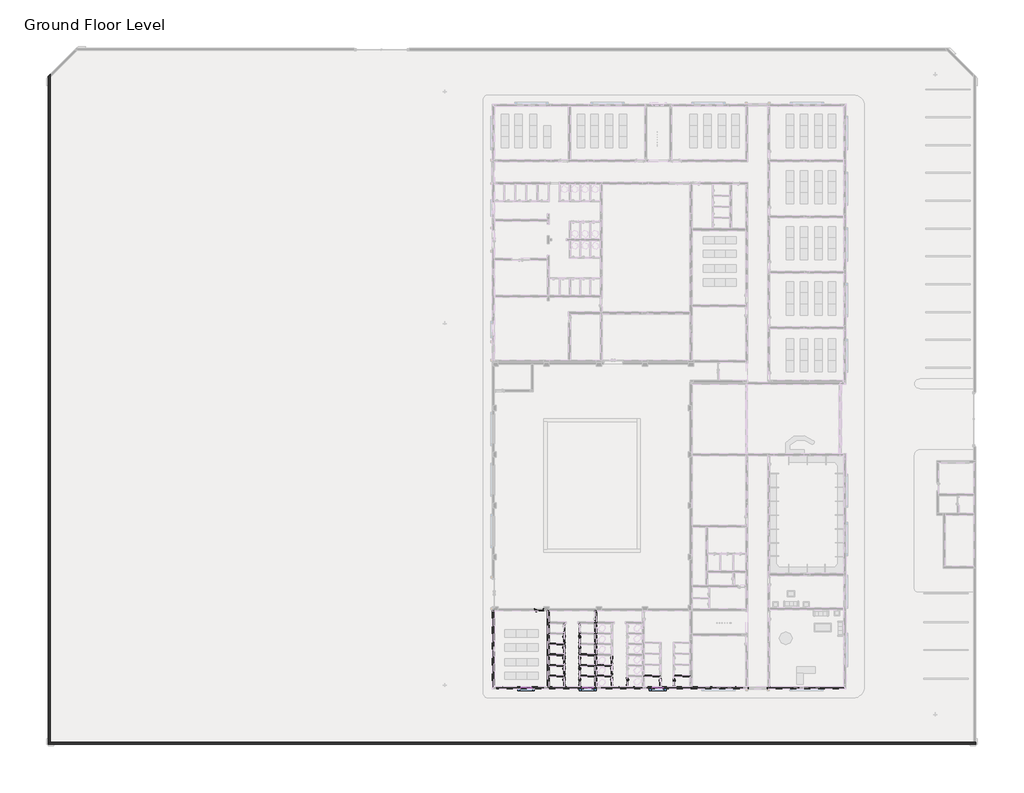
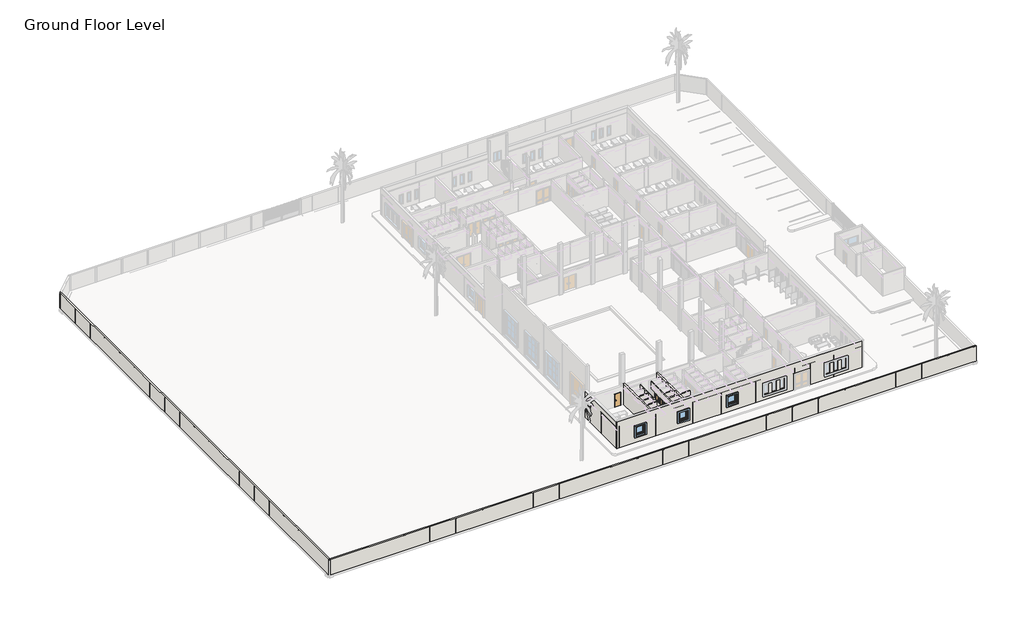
# One storey, part 1 of 23: 19 walls, 17 doors, 6 windows.
"""IFC4 building model written with IfcOpenShell, lengths in millimetres."""

from ifc_helpers import new_model, si_unit, frame, origin, place, context, project, spatial, polyline, outline, extrude, faceted_brep, transform, mapped, element, save
from components import int_single_flush_nz_700x_2100_d6161bae, int_single_flush_nz_700x_2100_e1d28701, int_single_flush_nz_900_x_2100_2a598139, window_batten_type_1_00c4e306, window_batten_type_1_dd563b97, window_single_shutter_w5_77842b58

model = new_model("IFC4")

# Units and contexts
model_context = context("Model", 3, world=origin())
ifc_project = project(units=[si_unit("LENGTHUNIT", "METRE", prefix="MILLI")], contexts=[model_context])

# Site, building, storey
site = spatial("IfcSite", under=ifc_project)
building = spatial("IfcBuilding", under=site)
storey = spatial("IfcBuildingStorey", under=building, Name="Ground Floor Level", Elevation=900.0)

# Doors
placement = place(None, origin())
int_single_flush_nz_700x_2100_shape = int_single_flush_nz_700x_2100_d6161bae(model_context)
element("IfcDoor", 1, ObjectType="Int Single-Flush (NZ) : 700x 2100", at=placement, inside=storey, context=model_context, shape_type="MappedRepresentation", body=[
    mapped(int_single_flush_nz_700x_2100_shape, transform((-12660.5667605, -40683.7935766, 1000.0), x_axis=(0.0, -1.0, 0.0), y_axis=(1.0, 0.0, 0.0), z_axis=(0.0, 0.0, 1.0))),
])
element("IfcDoor", 2, ObjectType="Int Single-Flush (NZ) : 700x 2100", at=placement, inside=storey, context=model_context, shape_type="MappedRepresentation", body=[
    mapped(int_single_flush_nz_700x_2100_shape, transform((-12660.5667605, -39492.7977116, 1000.0), x_axis=(0.0, -1.0, 0.0), y_axis=(1.0, 0.0, 0.0), z_axis=(0.0, 0.0, 1.0))),
])
element("IfcDoor", 3, ObjectType="Int Single-Flush (NZ) : 700x 2100", at=placement, inside=storey, context=model_context, shape_type="MappedRepresentation", body=[
    mapped(int_single_flush_nz_700x_2100_shape, transform((-12660.5667605, -38352.7881216, 1000.0), x_axis=(0.0, -1.0, 0.0), y_axis=(1.0, 0.0, 0.0), z_axis=(0.0, 0.0, 1.0))),
])
element("IfcDoor", 4, ObjectType="Int Single-Flush (NZ) : 700x 2100", at=placement, inside=storey, context=model_context, shape_type="MappedRepresentation", body=[
    mapped(int_single_flush_nz_700x_2100_shape, transform((-12660.5667605, -37212.7833316, 1000.0), x_axis=(0.0, -1.0, 0.0), y_axis=(1.0, 0.0, 0.0), z_axis=(0.0, 0.0, 1.0))),
])
element("IfcDoor", 5, ObjectType="Int Single-Flush (NZ) : 700x 2100", at=placement, inside=storey, context=model_context, shape_type="MappedRepresentation", body=[
    mapped(int_single_flush_nz_700x_2100_shape, transform((-12660.5667605, -36072.7834416, 1000.0), x_axis=(0.0, -1.0, 0.0), y_axis=(1.0, 0.0, 0.0), z_axis=(0.0, 0.0, 1.0))),
])
element("IfcDoor", 6, ObjectType="Int Single-Flush (NZ) : 700x 2100", at=placement, inside=storey, context=model_context, shape_type="MappedRepresentation", body=[
    mapped(int_single_flush_nz_700x_2100_shape, transform((-7527.2347605, -40683.7935766, 1000.0), x_axis=(0.0, -1.0, 0.0), y_axis=(1.0, 0.0, 0.0), z_axis=(0.0, 0.0, 1.0))),
])
element("IfcDoor", 7, ObjectType="Int Single-Flush (NZ) : 700x 2100", at=placement, inside=storey, context=model_context, shape_type="MappedRepresentation", body=[
    mapped(int_single_flush_nz_700x_2100_shape, transform((-2496.7643824, -40750.7846466, 1000.0), x_axis=(0.0, -1.0, 0.0), y_axis=(1.0, 0.0, 0.0), z_axis=(0.0, 0.0, 1.0))),
])
int_single_flush_nz_700x_2100_2_shape = int_single_flush_nz_700x_2100_e1d28701(model_context)
element("IfcDoor", 8, ObjectType="Int Single-Flush (NZ) : 700x 2100", at=placement, inside=storey, context=model_context, shape_type="MappedRepresentation", body=[
    mapped(int_single_flush_nz_700x_2100_2_shape, transform((-14300.5667605, -36072.7834416, 1000.0), x_axis=(0.0, -1.0, 0.0), y_axis=(1.0, 0.0, 0.0), z_axis=(0.0, 0.0, 1.0))),
])
element("IfcDoor", 9, ObjectType="Int Single-Flush (NZ) : 700x 2100", at=placement, inside=storey, context=model_context, shape_type="MappedRepresentation", body=[
    mapped(int_single_flush_nz_700x_2100_2_shape, transform((-14300.5667605, -37212.7833316, 1000.0), x_axis=(0.0, -1.0, 0.0), y_axis=(1.0, 0.0, 0.0), z_axis=(0.0, 0.0, 1.0))),
])
element("IfcDoor", 10, ObjectType="Int Single-Flush (NZ) : 700x 2100", at=placement, inside=storey, context=model_context, shape_type="MappedRepresentation", body=[
    mapped(int_single_flush_nz_700x_2100_2_shape, transform((-14300.5667605, -38352.7881216, 1000.0), x_axis=(0.0, -1.0, 0.0), y_axis=(1.0, 0.0, 0.0), z_axis=(0.0, 0.0, 1.0))),
])
element("IfcDoor", 11, ObjectType="Int Single-Flush (NZ) : 700x 2100", at=placement, inside=storey, context=model_context, shape_type="MappedRepresentation", body=[
    mapped(int_single_flush_nz_700x_2100_2_shape, transform((-14300.5667605, -39497.7977116, 1000.0), x_axis=(0.0, -1.0, 0.0), y_axis=(1.0, 0.0, 0.0), z_axis=(0.0, 0.0, 1.0))),
])
element("IfcDoor", 12, ObjectType="Int Single-Flush (NZ) : 700x 2100", at=placement, inside=storey, context=model_context, shape_type="MappedRepresentation", body=[
    mapped(int_single_flush_nz_700x_2100_2_shape, transform((-14300.5667605, -40688.7935766, 1000.0), x_axis=(0.0, -1.0, 0.0), y_axis=(1.0, 0.0, 0.0), z_axis=(0.0, 0.0, 1.0))),
])
element("IfcDoor", 13, ObjectType="Int Single-Flush (NZ) : 700x 2100", at=placement, inside=storey, context=model_context, shape_type="MappedRepresentation", body=[
    mapped(int_single_flush_nz_700x_2100_2_shape, transform((-9167.2347605, -38352.7881216, 1000.0), x_axis=(0.0, -1.0, 0.0), y_axis=(1.0, 0.0, 0.0), z_axis=(0.0, 0.0, 1.0))),
])
element("IfcDoor", 14, ObjectType="Int Single-Flush (NZ) : 700x 2100", at=placement, inside=storey, context=model_context, shape_type="MappedRepresentation", body=[
    mapped(int_single_flush_nz_700x_2100_2_shape, transform((-9167.2347605, -39492.7977116, 1000.0), x_axis=(0.0, -1.0, 0.0), y_axis=(1.0, 0.0, 0.0), z_axis=(0.0, 0.0, 1.0))),
])
element("IfcDoor", 15, ObjectType="Int Single-Flush (NZ) : 700x 2100", at=placement, inside=storey, context=model_context, shape_type="MappedRepresentation", body=[
    mapped(int_single_flush_nz_700x_2100_2_shape, transform((-9167.2347605, -40683.7935766, 1000.0), x_axis=(0.0, -1.0, 0.0), y_axis=(1.0, 0.0, 0.0), z_axis=(0.0, 0.0, 1.0))),
])
element("IfcDoor", 16, ObjectType="Int Single-Flush (NZ) : 700x 2100", at=placement, inside=storey, context=model_context, shape_type="MappedRepresentation", body=[
    mapped(int_single_flush_nz_700x_2100_2_shape, transform((-3931.0371386, -40750.7846466, 1000.0), x_axis=(0.0, -1.0, 0.0), y_axis=(1.0, 0.0, 0.0), z_axis=(0.0, 0.0, 1.0))),
])
int_single_flush_nz_900_x_2100_shape = int_single_flush_nz_900_x_2100_2a598139(model_context)
element("IfcDoor", 17, ObjectType="Int Single-Flush (NZ) : 900 x 2100", at=placement, inside=storey, context=model_context, shape_type="MappedRepresentation", body=[
    mapped(int_single_flush_nz_900_x_2100_shape, transform((-16951.2327605, -32854.7846466, 1000.0), x_axis=(1.0, 0.0, 0.0), y_axis=(0.0, 1.0, 0.0), z_axis=(0.0, 0.0, 1.0))),
])

# Walls
element("IfcWall", 18, ObjectType="Exterior - Blockwork 200mm", at=placement, inside=storey, context=model_context, shape_type="Brep", body=[
    faceted_brep([(7852.7672395, -41144.7846466, 4400.0), (7862.7672395, -41144.7846466, 4400.0), (15843.0482736, -41144.7846466, 4400.0), (15843.0482736, -41144.7846466, 1000.0), (7862.7672395, -41144.7846466, 1000.0), (7852.7672395, -41144.7846466, 1000.0), (13323.7672395, -41144.7846466, 1800.0000012), (13323.7672395, -41144.7846466, 3400.0000012), (12723.7672395, -41144.7846466, 3400.0000012), (12723.7672395, -41144.7846466, 1800.0000012), (12123.7672395, -41144.7846466, 1800.0000013), (12123.7672395, -41144.7846466, 3400.0000013), (11523.7672395, -41144.7846466, 3400.0000013), (11523.7672395, -41144.7846466, 1800.0000013), (10923.7672395, -41144.7846466, 1800.0000013), (10923.7672395, -41144.7846466, 3400.0000013), (10323.7672395, -41144.7846466, 3400.0000013), (10323.7672395, -41144.7846466, 1800.0000013), (-547.2327605, -41144.7846466, 4400.0), (-537.2327605, -41144.7846466, 4400.0), (5242.7672394, -41144.7846466, 4400.0), (5462.7672394, -41144.7846466, 4400.0), (7642.7672395, -41144.7846466, 4400.0), (7652.7672395, -41144.7846466, 4400.0), (7652.7672395, -41144.7846466, 1000.0), (7642.7672395, -41144.7846466, 1000.0), (7578.7672394, -41144.7846466, 1000.0), (7578.7672394, -41144.7846466, 3400.0), (5526.7672394, -41144.7846466, 3400.0), (5526.7672394, -41144.7846466, 1000.0), (5462.7672394, -41144.7846466, 1000.0), (5452.7672394, -41144.7846466, 1000.0), (5452.7672394, -41144.7846466, 900.0), (5252.7672394, -41144.7846466, 900.0), (5252.7672394, -41144.7846466, 1000.0), (5242.7672394, -41144.7846466, 1000.0), (-537.2327605, -41144.7846466, 1000.0), (-547.2327605, -41144.7846466, 1000.0), (3823.7672395, -41144.7846466, 1800.0000012), (3823.7672395, -41144.7846466, 3400.0000012), (3223.7672395, -41144.7846466, 3400.0000012), (3223.7672395, -41144.7846466, 1800.0000012), (2623.7672395, -41144.7846466, 1800.0000013), (2623.7672395, -41144.7846466, 3400.0000013), (2023.7672395, -41144.7846466, 3400.0000013), (2023.7672395, -41144.7846466, 1800.0000013), (1423.7672395, -41144.7846466, 1800.0000013), (1423.7672395, -41144.7846466, 3400.0000013), (823.7672395, -41144.7846466, 3400.0000013), (823.7672395, -41144.7846466, 1800.0000013), (-22057.2327605, -41144.7846466, 5302.8002678), (-21837.2327605, -41144.7846466, 5302.8002678), (-19976.2327602, -41144.7846466, 5302.8002678), (-16876.2327604, -41144.7846466, 5302.8002678), (-13326.2327602, -41144.7846466, 5302.8002678), (-10226.2327604, -41144.7846466, 5302.8002678), (-5776.2327602, -41144.7846466, 5302.8002678), (-2676.2327604, -41144.7846466, 5302.8002678), (773.7672398, -41144.7846466, 5302.8002678), (3873.7672396, -41144.7846466, 5302.8002678), (10282.7672394, -41144.7846466, 5302.8002678), (13382.7672392, -41144.7846466, 5302.8002678), (15843.0482736, -41144.7846466, 5302.8002678), (15843.0482736, -41144.7846466, 4550.0), (-21837.2327605, -41144.7846466, 4550.0), (-22047.2327605, -41144.7846466, 4550.0), (-22047.2327605, -41144.7846466, 4400.0), (-21837.2327605, -41144.7846466, 4400.0), (-16157.2327605, -41144.7846466, 4400.0), (-15937.2327605, -41144.7846466, 4400.0), (-14360.5667605, -41144.7846466, 4400.0), (-14240.5667605, -41144.7846466, 4400.0), (-12720.5667605, -41144.7846466, 4400.0), (-12600.5667605, -41144.7846466, 4400.0), (-11023.9007605, -41144.7846466, 4400.0), (-10803.9007605, -41144.7846466, 4400.0), (-9227.2347605, -41144.7846466, 4400.0), (-9107.2347605, -41144.7846466, 4400.0), (-7587.2347605, -41144.7846466, 4400.0), (-7467.2347605, -41144.7846466, 4400.0), (-5890.5687605, -41144.7846466, 4400.0), (-5670.5687605, -41144.7846466, 4400.0), (-3991.0371386, -41144.7846466, 4400.0), (-3871.0371386, -41144.7846466, 4400.0), (-2556.7643824, -41144.7846466, 4400.0), (-2436.7643824, -41144.7846466, 4400.0), (-757.2327605, -41144.7846466, 4400.0), (-747.2327605, -41144.7846466, 4400.0), (-747.2327605, -41144.7846466, 1000.0), (-757.2327605, -41144.7846466, 1000.0), (-15937.2327605, -41144.7846466, 1000.0), (-15947.2327605, -41144.7846466, 1000.0), (-15947.2327605, -41144.7846466, 900.0), (-16147.2327605, -41144.7846466, 900.0), (-16147.2327605, -41144.7846466, 1000.0), (-16157.2327605, -41144.7846466, 1000.0), (-21837.2327605, -41144.7846466, 1000.0), (-21847.2327605, -41144.7846466, 1000.0), (-21847.2327605, -41144.7846466, 900.0), (-22057.2327605, -41144.7846466, 900.0), (-17826.2327605, -41144.7846466, 2100.0000012), (-17826.2327605, -41144.7846466, 3400.0000012), (-19026.2327605, -41144.7846466, 3400.0000012), (-19026.2327605, -41144.7846466, 2100.0000012), (-11176.2327605, -41144.7846466, 2100.0000012), (-11176.2327605, -41144.7846466, 3400.0000012), (-12376.2327605, -41144.7846466, 3400.0000012), (-12376.2327605, -41144.7846466, 2100.0000012), (-3626.2327605, -41144.7846466, 2100.0000012), (-3626.2327605, -41144.7846466, 3400.0000012), (-4826.2327605, -41144.7846466, 3400.0000012), (-4826.2327605, -41144.7846466, 2100.0000012), (15843.0482736, -41364.7846466, 5302.8002678), (13382.7672392, -41364.7846466, 5302.8002678), (10282.7672394, -41364.7846466, 5302.8002678), (3873.7672396, -41364.7846466, 5302.8002678), (773.7672398, -41364.7846466, 5302.8002678), (-2676.2327604, -41364.7846466, 5302.8002678), (-5776.2327602, -41364.7846466, 5302.8002678), (-10226.2327604, -41364.7846466, 5302.8002678), (-13326.2327602, -41364.7846466, 5302.8002678), (-16876.2327604, -41364.7846466, 5302.8002678), (-19976.2327602, -41364.7846466, 5302.8002678), (-22057.2327605, -41364.7846466, 5302.8002678), (-22057.2327605, -41364.7846466, 900.0), (5526.7672394, -41364.7846466, 900.0), (5526.7672394, -41364.7846466, 3400.0), (7578.7672394, -41364.7846466, 3400.0), (7578.7672394, -41364.7846466, 900.0), (15843.0482736, -41364.7846466, 900.0), (13323.7672395, -41364.7846466, 3400.0000012), (13323.7672395, -41364.7846466, 1800.0000012), (12723.7672395, -41364.7846466, 1800.0000012), (12723.7672395, -41364.7846466, 3400.0000012), (12123.7672395, -41364.7846466, 3400.0000013), (12123.7672395, -41364.7846466, 1800.0000013), (11523.7672395, -41364.7846466, 1800.0000013), (11523.7672395, -41364.7846466, 3400.0000013), (10923.7672395, -41364.7846466, 3400.0000013), (10923.7672395, -41364.7846466, 1800.0000013), (10323.7672395, -41364.7846466, 1800.0000013), (10323.7672395, -41364.7846466, 3400.0000013), (3823.7672395, -41364.7846466, 3400.0000012), (3823.7672395, -41364.7846466, 1800.0000012), (3223.7672395, -41364.7846466, 1800.0000012), (3223.7672395, -41364.7846466, 3400.0000012), (2623.7672395, -41364.7846466, 3400.0000013), (2623.7672395, -41364.7846466, 1800.0000013), (2023.7672395, -41364.7846466, 1800.0000013), (2023.7672395, -41364.7846466, 3400.0000013), (1423.7672395, -41364.7846466, 3400.0000013), (1423.7672395, -41364.7846466, 1800.0000013), (823.7672395, -41364.7846466, 1800.0000013), (823.7672395, -41364.7846466, 3400.0000013), (-17826.2327605, -41364.7846466, 3400.0000012), (-17826.2327605, -41364.7846466, 2100.0000012), (-19026.2327605, -41364.7846466, 2100.0000012), (-19026.2327605, -41364.7846466, 3400.0000012), (-11176.2327605, -41364.7846466, 3400.0000012), (-11176.2327605, -41364.7846466, 2100.0000012), (-12376.2327605, -41364.7846466, 2100.0000012), (-12376.2327605, -41364.7846466, 3400.0000012), (-3626.2327605, -41364.7846466, 3400.0000012), (-3626.2327605, -41364.7846466, 2100.0000012), (-4826.2327605, -41364.7846466, 2100.0000012), (-4826.2327605, -41364.7846466, 3400.0000012), (15843.0482736, -41154.7846466, 900.0), (15843.0482736, -41154.7846466, 1000.0), (15843.0482736, -41354.7846466, 4400.0), (15843.0482736, -41354.7846466, 4550.0), (-22047.2327605, -41154.7846466, 4400.0), (-22047.2327605, -41154.7846466, 900.0), (-21847.2327605, -41154.7846466, 900.0), (-21847.2327605, -41154.7846466, 1000.0), (-21647.2327605, -41154.7846466, 1000.0), (-21647.2327605, -41154.7846466, 4400.0), (-21647.2327605, -41354.7846466, 900.0), (-21647.2327605, -41354.7846466, 4400.0), (-21647.2327605, -41154.7846466, 900.0), (-15997.2327605, -41154.7846466, 900.0), (-15997.2327605, -41154.7846466, 4400.0), (-16497.2327605, -41154.7846466, 4400.0), (-16497.2327605, -41154.7846466, 1000.0), (-16147.2327605, -41154.7846466, 1000.0), (-16147.2327605, -41154.7846466, 900.0), (-15997.2327605, -41354.7846466, 900.0), (-15997.2327605, -41354.7846466, 4400.0), (-16497.2327605, -41354.7846466, 4400.0), (-16497.2327605, -41354.7846466, 900.0), (-16497.2327605, -41154.7846466, 900.0), (-10297.2327605, -41154.7846466, 4400.0), (-10797.2327605, -41154.7846466, 4400.0), (-10797.2327605, -41154.7846466, 1000.0), (-10297.2327605, -41154.7846466, 1000.0), (-10297.2327605, -41354.7846466, 900.0), (-10297.2327605, -41354.7846466, 4400.0), (-10297.2327605, -41154.7846466, 900.0), (-10797.2327605, -41354.7846466, 4400.0), (-10797.2327605, -41354.7846466, 900.0), (-10797.2327605, -41154.7846466, 900.0), (-5397.2327605, -41154.7846466, 4400.0), (-5897.2327605, -41154.7846466, 4400.0), (-5897.2327605, -41154.7846466, 1000.0), (-5397.2327605, -41154.7846466, 1000.0), (-5397.2327605, -41354.7846466, 900.0), (-5397.2327605, -41354.7846466, 4400.0), (-5397.2327605, -41154.7846466, 900.0), (-5897.2327605, -41354.7846466, 4400.0), (-5897.2327605, -41354.7846466, 900.0), (-5897.2327605, -41154.7846466, 900.0), (-22047.2327605, -41354.7846466, 4550.0), (-22047.2327605, -41354.7846466, 4400.0), (-22047.2327605, -41354.7846466, 900.0), (11002.7672395, -41354.7846466, 4400.0), (11002.7672395, -41354.7846466, 900.0), (11002.7672395, -41154.7846466, 900.0), (11002.7672395, -41154.7846466, 1000.0), (11002.7672395, -41154.7846466, 4400.0), (11502.7672395, -41154.7846466, 4400.0), (11502.7672395, -41154.7846466, 1000.0), (11502.7672395, -41354.7846466, 900.0), (11502.7672395, -41354.7846466, 4400.0), (11502.7672395, -41154.7846466, 900.0), (7652.7672395, -41354.7846466, 4400.0), (7652.7672395, -41354.7846466, 900.0), (7652.7672395, -41154.7846466, 900.0), (7652.7672395, -41154.7846466, 1000.0), (7852.7672395, -41354.7846466, 900.0), (7852.7672395, -41354.7846466, 4400.0), (7852.7672395, -41154.7846466, 1000.0), (7852.7672395, -41154.7846466, 900.0), (5452.7672395, -41154.7846466, 4400.0), (4952.7672395, -41154.7846466, 4400.0), (4952.7672395, -41154.7846466, 1000.0), (5252.7672394, -41154.7846466, 1000.0), (5252.7672394, -41154.7846466, 900.0), (5452.7672395, -41154.7846466, 900.0), (5452.7672395, -41154.7846466, 1000.0), (5452.7672395, -41354.7846466, 900.0), (5452.7672395, -41354.7846466, 4400.0), (4952.7672395, -41354.7846466, 4400.0), (4952.7672395, -41354.7846466, 900.0), (4952.7672395, -41154.7846466, 900.0), (-547.2327605, -41354.7846466, 900.0), (-547.2327605, -41354.7846466, 4400.0), (-547.2327605, -41154.7846466, 1000.0), (-547.2327605, -41154.7846466, 900.0), (-747.2327605, -41354.7846466, 4400.0), (-747.2327605, -41354.7846466, 900.0), (-747.2327605, -41154.7846466, 900.0), (-747.2327605, -41154.7846466, 1000.0), (-15947.2327605, -41154.7846466, 1000.0), (-15947.2327605, -41154.7846466, 900.0), (5526.7672394, -41154.7846466, 1000.0), (5452.7672394, -41154.7846466, 1000.0), (7578.7672394, -41154.7846466, 1000.0), (5526.7672394, -41154.7846466, 900.0), (7578.7672394, -41154.7846466, 900.0)], [[[0, 1, 2, 3, 4, 5], [6, 7, 8, 9], [10, 11, 12, 13], [14, 15, 16, 17]], [[18, 19, 20, 21, 22, 23, 24, 25, 26, 27, 28, 29, 30, 31, 32, 33, 34, 35, 36, 37], [38, 39, 40, 41], [42, 43, 44, 45], [46, 47, 48, 49]], [[50, 51, 52, 53, 54, 55, 56, 57, 58, 59, 60, 61, 62, 63, 64, 65, 66, 67, 68, 69, 70, 71, 72, 73, 74, 75, 76, 77, 78, 79, 80, 81, 82, 83, 84, 85, 86, 87, 88, 89, 90, 91, 92, 93, 94, 95, 96, 97, 98, 99], [100, 101, 102, 103], [104, 105, 106, 107], [108, 109, 110, 111]], [[112, 113, 114, 115, 116, 117, 118, 119, 120, 121, 122, 123, 124, 125, 126, 127, 128, 129], [130, 131, 132, 133], [134, 135, 136, 137], [138, 139, 140, 141], [142, 143, 144, 145], [146, 147, 148, 149], [150, 151, 152, 153], [154, 155, 156, 157], [158, 159, 160, 161], [162, 163, 164, 165]], [[50, 99, 124, 123]], [[112, 129, 166, 167, 3, 2, 168, 169, 63, 62]], [[170, 171, 172, 173, 174, 175]], [[176, 177, 175, 174, 178]], [[179, 180, 181, 182, 183, 184]], [[180, 179, 185, 186]], [[187, 188, 189, 182, 181]], [[190, 191, 192, 193]], [[194, 195, 190, 193, 196]], [[197, 198, 199, 192, 191]], [[200, 201, 202, 203]], [[204, 205, 200, 203, 206]], [[207, 208, 209, 202, 201]], [[171, 170, 66, 65, 210, 211, 212]], [[213, 214, 215, 216, 217]], [[218, 217, 216, 219]], [[220, 221, 218, 219, 222]], [[223, 224, 225, 226, 24, 23]], [[227, 228, 0, 5, 229, 230]], [[231, 232, 233, 234, 235, 236, 237]], [[238, 239, 231, 237, 236]], [[240, 241, 242, 233, 232]], [[243, 244, 18, 37, 245, 246]], [[247, 248, 249, 250, 88, 87]], [[177, 176, 212, 211, 210, 169, 168, 221, 220, 214, 213, 228, 227, 224, 223, 239, 238, 241, 240, 244, 243, 248, 247, 205, 204, 208, 207, 195, 194, 198, 197, 186, 185, 188, 187]], [[7, 6, 131, 130]], [[8, 7, 130, 133]], [[9, 8, 133, 132]], [[6, 9, 132, 131]], [[11, 10, 135, 134]], [[12, 11, 134, 137]], [[13, 12, 137, 136]], [[10, 13, 136, 135]], [[15, 14, 139, 138]], [[16, 15, 138, 141]], [[17, 16, 141, 140]], [[14, 17, 140, 139]], [[39, 38, 143, 142]], [[40, 39, 142, 145]], [[41, 40, 145, 144]], [[38, 41, 144, 143]], [[43, 42, 147, 146]], [[44, 43, 146, 149]], [[45, 44, 149, 148]], [[42, 45, 148, 147]], [[47, 46, 151, 150]], [[48, 47, 150, 153]], [[49, 48, 153, 152]], [[46, 49, 152, 151]], [[101, 100, 155, 154]], [[102, 101, 154, 157]], [[103, 102, 157, 156]], [[100, 103, 156, 155]], [[105, 104, 159, 158]], [[106, 105, 158, 161]], [[107, 106, 161, 160]], [[104, 107, 160, 159]], [[109, 108, 163, 162]], [[110, 109, 162, 165]], [[111, 110, 165, 164]], [[108, 111, 164, 163]], [[177, 187, 181, 180, 186, 197, 191, 190, 195, 207, 201, 200, 205, 247, 87, 86, 85, 84, 83, 82, 81, 80, 79, 78, 77, 76, 75, 74, 73, 72, 71, 70, 69, 68, 67, 66, 170, 175]], [[228, 213, 217, 218, 221, 168, 2, 1, 0]], [[239, 223, 23, 22, 21, 20, 19, 18, 244, 240, 232, 231]], [[169, 210, 65, 64, 63]], [[182, 174, 173, 97, 96, 95, 94, 183]], [[183, 94, 93, 184]], [[174, 182, 189, 178]], [[97, 173, 172, 98]], [[192, 251, 91, 90, 89, 88, 250, 203, 202, 193]], [[203, 250, 249, 206]], [[193, 202, 209, 196]], [[252, 251, 192, 199]], [[251, 252, 92, 91]], [[233, 245, 37, 36, 35, 34, 234]], [[234, 34, 33, 235]], [[245, 233, 242, 246]], [[216, 229, 5, 4, 3, 167, 219]], [[229, 216, 215, 230]], [[219, 167, 166, 222]], [[253, 254, 31, 30, 29]], [[226, 255, 26, 25, 24]], [[236, 254, 253, 256]], [[255, 226, 225, 257]], [[254, 236, 32, 31]], [[28, 126, 125, 256, 253, 29]], [[126, 28, 27, 127]], [[127, 27, 26, 255, 257, 128]], [[125, 124, 99, 98, 172, 171, 212, 176, 178, 189, 188, 185, 179, 184, 93, 92, 252, 199, 198, 194, 196, 209, 208, 204, 206, 249, 248, 243, 246, 242, 241, 238, 236, 256]], [[129, 128, 257, 225, 224, 227, 230, 215, 214, 220, 222, 166]], [[236, 235, 33, 32]], [[62, 61, 60, 59, 58, 57, 56, 55, 54, 53, 52, 51, 50, 123, 122, 121, 120, 119, 118, 117, 116, 115, 114, 113, 112]]]),
])
element("IfcWall", 19, ObjectType="Exterior - Blockwork 200mm", at=placement, inside=storey, context=model_context, shape_type="Brep", body=[
    faceted_brep([(-21837.2327605, -32964.7846466, 5302.8002678), (-21837.2327605, -35594.7846469, 5302.8002678), (-21837.2327605, -38694.7846467, 5302.8002678), (-21837.2327605, -41144.7846466, 5302.8002678), (-21837.2327605, -41144.7846466, 4550.0), (-21837.2327605, -32964.7846466, 4550.0), (-21837.2327605, -32854.7846466, 4100.0), (-21837.2327605, -32854.7846466, 4400.0), (-21837.2327605, -32954.7846466, 4400.0), (-21837.2327605, -32964.7846466, 4400.0), (-21837.2327605, -41144.7846466, 4400.0), (-21837.2327605, -41144.7846466, 1000.0), (-21837.2327605, -32964.7846466, 1000.0), (-21837.2327605, -32964.7846466, 4100.0), (-21837.2327605, -32954.7846466, 4100.0), (-22057.2327605, -32964.7846466, 900.0), (-22057.2327605, -41144.7846466, 900.0), (-22057.2327605, -41144.7846466, 5302.8002678), (-22057.2327605, -38694.7846467, 5302.8002678), (-22057.2327605, -35594.7846469, 5302.8002678), (-22057.2327605, -32964.7846466, 5302.8002678), (-22057.2327605, -32964.7846466, 4400.0), (-22057.2327605, -32854.7846466, 4400.0), (-22057.2327605, -32854.7846466, 4100.0), (-22057.2327605, -32964.7846466, 4100.0), (-21847.2327605, -41144.7846466, 900.0), (-21847.2327605, -41144.7846466, 1000.0), (-22047.2327605, -41144.7846466, 4400.0), (-22047.2327605, -41144.7846466, 4550.0), (-21847.2327605, -37304.7846466, 4400.0), (-21847.2327605, -36804.7846466, 4400.0), (-21847.2327605, -36804.7846466, 1000.0), (-21847.2327605, -37304.7846466, 1000.0), (-22047.2327605, -37304.7846466, 900.0), (-22047.2327605, -37304.7846466, 4400.0), (-21847.2327605, -37304.7846466, 900.0), (-22047.2327605, -36804.7846466, 4400.0), (-22047.2327605, -36804.7846466, 900.0), (-21847.2327605, -36804.7846466, 900.0), (-22047.2327605, -32964.7846466, 4400.0), (-22047.2327605, -32964.7846466, 4550.0), (-21847.2327605, -32964.7846466, 1000.0), (-21847.2327605, -32964.7846466, 900.0), (-22047.2327605, -32854.7846466, 4100.0), (-22047.2327605, -32854.7846466, 4400.0)], [[[0, 1, 2, 3, 4, 5]], [[6, 7, 8, 9, 10, 11, 12, 13, 14]], [[15, 16, 17, 18, 19, 20, 21, 22, 23, 24]], [[17, 16, 25, 26, 11, 10, 27, 28, 4, 3]], [[29, 30, 31, 32]], [[33, 34, 29, 32, 35]], [[36, 37, 38, 31, 30]], [[34, 33, 37, 36, 39, 40, 28, 27]], [[28, 40, 5, 4]], [[15, 24, 13, 12, 41, 42]], [[21, 20, 0, 5, 40, 39]], [[26, 32, 31, 41, 12, 11]], [[32, 26, 25, 35]], [[41, 31, 38, 42]], [[16, 15, 42, 38, 37, 33, 35, 25]], [[3, 2, 1, 0, 20, 19, 18, 17]], [[23, 43, 6, 14, 13, 24]], [[23, 22, 44, 7, 6, 43]], [[34, 27, 10, 9, 8, 7, 44, 22, 21, 39, 36, 30, 29]]]),
])
element("IfcWall", 20, ObjectType="Exterior - Blockwork 200mm", at=placement, inside=storey, context=model_context, shape_type="Brep", body=[
    faceted_brep([(30052.7672395, -47134.7846466, 600.0), (29832.7672395, -47134.7846466, 600.0), (-69727.2327605, -47134.7846466, 600.0), (-69947.2327605, -47134.7846466, 600.0), (-69947.2327605, -47134.7846466, 3100.0), (-69727.2327605, -47134.7846466, 3100.0), (29832.7672395, -47134.7846466, 3100.0), (30052.7672395, -47134.7846466, 3100.0), (30052.7672395, -47354.7846466, 600.0), (30052.7672395, -47354.7846466, 3100.0), (-69947.2327605, -47354.7846466, 3100.0), (-69947.2327605, -47354.7846466, 600.0)], [[[0, 1, 2, 3, 4, 5, 6, 7]], [[8, 9, 10, 11]], [[3, 2, 1, 0, 8, 11]], [[7, 6, 5, 4, 10, 9]], [[4, 3, 11, 10]], [[0, 7, 9, 8]]]),
])
element("IfcWall", 21, ObjectType="Exterior - Blockwork 200mm", at=placement, inside=storey, context=model_context, shape_type="Brep", body=[
    faceted_brep([(-69727.2327605, -47134.7846466, 600.0), (-69727.2327605, 24554.0883697, 600.0), (-69727.2327605, 24865.2153534, 600.0), (-69727.2327605, 24865.2153534, 3100.0), (-69727.2327605, 24554.0883697, 3100.0), (-69727.2327605, -47134.7846466, 3100.0), (-69947.2327605, -47134.7846466, 600.0), (-69947.2327605, -47134.7846466, 3100.0), (-69947.2327605, 24645.2153534, 3100.0), (-69947.2327605, 24645.2153534, 600.0)], [[[0, 1, 2, 3, 4, 5]], [[6, 7, 8, 9]], [[2, 1, 0, 6, 9]], [[5, 4, 3, 8, 7]], [[0, 5, 7, 6]], [[3, 2, 9, 8]]]),
])
element("IfcWall", 22, ObjectType="Interior - Blockwork 200", at=placement, inside=storey, context=model_context, shape_type="Brep", body=[
    faceted_brep([(-16157.2327605, -41144.7846466, 4400.0), (-16157.2327605, -32964.7846466, 4400.0), (-16157.2327605, -32964.7846466, 1000.0), (-16157.2327605, -41144.7846466, 1000.0), (-15937.2327605, -32964.7846466, 4400.0), (-15937.2327605, -34144.6926466, 4400.0), (-15937.2327605, -34364.6926466, 4400.0), (-15937.2327605, -35342.7835466, 4400.0), (-15937.2327605, -35512.7835466, 4400.0), (-15937.2327605, -36482.7833366, 4400.0), (-15937.2327605, -36652.7833366, 4400.0), (-15937.2327605, -37622.7833266, 4400.0), (-15937.2327605, -37792.7833266, 4400.0), (-15937.2327605, -38762.7929166, 4400.0), (-15937.2327605, -38932.7929166, 4400.0), (-15937.2327605, -39912.8025066, 4400.0), (-15937.2327605, -40082.8025066, 4400.0), (-15937.2327605, -41144.7846466, 4400.0), (-15937.2327605, -41144.7846466, 1000.0), (-15937.2327605, -32964.7846466, 1000.0), (-16147.2327605, -41144.7846466, 900.0), (-16147.2327605, -32964.7846466, 900.0), (-15947.2327605, -32964.7846466, 900.0), (-15947.2327605, -41144.7846466, 900.0), (-16147.2327605, -41144.7846466, 1000.0), (-15947.2327605, -41144.7846466, 1000.0), (-16147.2327605, -32964.7846466, 1000.0), (-15947.2327605, -32964.7846466, 1000.0)], [[[0, 1, 2, 3]], [[4, 5, 6, 7, 8, 9, 10, 11, 12, 13, 14, 15, 16, 17, 18, 19]], [[20, 21, 22, 23]], [[17, 0, 3, 24, 20, 23, 25, 18]], [[1, 0, 17, 16, 15, 14, 13, 12, 11, 10, 9, 8, 7, 6, 5, 4]], [[3, 2, 26, 24]], [[21, 20, 24, 26]], [[1, 4, 19, 27, 22, 21, 26, 2]], [[25, 27, 19, 18]], [[27, 25, 23, 22]]]),
])
element("IfcWall", 23, ObjectType="Interior - Blockwork 200", at=placement, inside=storey, context=model_context, shape_type="Brep", body=[
    faceted_brep([(-11023.9007605, -32964.7846466, 900.0), (-11023.9007605, -34144.6926466, 900.0), (-11023.9007605, -34364.6926466, 900.0), (-11023.9007605, -35342.7835466, 900.0), (-11023.9007605, -35512.7835466, 900.0), (-11023.9007605, -36482.7833366, 900.0), (-11023.9007605, -36652.7833366, 900.0), (-11023.9007605, -37622.7833266, 900.0), (-11023.9007605, -37792.7833266, 900.0), (-11023.9007605, -38762.7929166, 900.0), (-11023.9007605, -38932.7929166, 900.0), (-11023.9007605, -39902.8025066, 900.0), (-11023.9007605, -40072.8025066, 900.0), (-11023.9007605, -41144.7846466, 900.0), (-11023.9007605, -41144.7846466, 4400.0), (-11023.9007605, -40072.8025066, 4400.0), (-11023.9007605, -39902.8025066, 4400.0), (-11023.9007605, -38932.7929166, 4400.0), (-11023.9007605, -38762.7929166, 4400.0), (-11023.9007605, -37792.7833266, 4400.0), (-11023.9007605, -37622.7833266, 4400.0), (-11023.9007605, -36652.7833366, 4400.0), (-11023.9007605, -36482.7833366, 4400.0), (-11023.9007605, -35512.7835466, 4400.0), (-11023.9007605, -35342.7835466, 4400.0), (-11023.9007605, -34364.6926466, 4400.0), (-11023.9007605, -34144.6926466, 4400.0), (-11023.9007605, -32964.7846466, 4400.0), (-11023.9007605, -33085.7386466, 1000.0), (-11023.9007605, -33085.7386466, 3119.0), (-11023.9007605, -34023.7386466, 3119.0), (-11023.9007605, -34023.7386466, 1000.0), (-10803.9007605, -41144.7846466, 900.0), (-10803.9007605, -40072.8025066, 900.0), (-10803.9007605, -39902.8025066, 900.0), (-10803.9007605, -38932.7929166, 900.0), (-10803.9007605, -38762.7929166, 900.0), (-10803.9007605, -37792.7833266, 900.0), (-10803.9007605, -37622.7833266, 900.0), (-10803.9007605, -36652.7833366, 900.0), (-10803.9007605, -36482.7833366, 900.0), (-10803.9007605, -35512.7835466, 900.0), (-10803.9007605, -35342.7835466, 900.0), (-10803.9007605, -34364.6926466, 900.0), (-10803.9007605, -34144.6926466, 900.0), (-10803.9007605, -32964.7846466, 900.0), (-10803.9007605, -32964.7846466, 4400.0), (-10803.9007605, -34144.6926466, 4400.0), (-10803.9007605, -34364.6926466, 4400.0), (-10803.9007605, -35342.7835466, 4400.0), (-10803.9007605, -35512.7835466, 4400.0), (-10803.9007605, -36482.7833366, 4400.0), (-10803.9007605, -36652.7833366, 4400.0), (-10803.9007605, -37622.7833266, 4400.0), (-10803.9007605, -37792.7833266, 4400.0), (-10803.9007605, -38762.7929166, 4400.0), (-10803.9007605, -38932.7929166, 4400.0), (-10803.9007605, -39902.8025066, 4400.0), (-10803.9007605, -40072.8025066, 4400.0), (-10803.9007605, -41144.7846466, 4400.0), (-10803.9007605, -33085.7386466, 3119.0), (-10803.9007605, -33085.7386466, 1000.0), (-10803.9007605, -34023.7386466, 1000.0), (-10803.9007605, -34023.7386466, 3119.0)], [[[0, 1, 2, 3, 4, 5, 6, 7, 8, 9, 10, 11, 12, 13, 14, 15, 16, 17, 18, 19, 20, 21, 22, 23, 24, 25, 26, 27], [28, 29, 30, 31]], [[32, 33, 34, 35, 36, 37, 38, 39, 40, 41, 42, 43, 44, 45, 46, 47, 48, 49, 50, 51, 52, 53, 54, 55, 56, 57, 58, 59], [60, 61, 62, 63]], [[13, 12, 11, 10, 9, 8, 7, 6, 5, 4, 3, 2, 1, 0, 45, 44, 43, 42, 41, 40, 39, 38, 37, 36, 35, 34, 33, 32]], [[14, 13, 32, 59]], [[27, 26, 25, 24, 23, 22, 21, 20, 19, 18, 17, 16, 15, 14, 59, 58, 57, 56, 55, 54, 53, 52, 51, 50, 49, 48, 47, 46]], [[0, 27, 46, 45]], [[28, 61, 60, 29]], [[30, 63, 62, 31]], [[61, 28, 31, 62]], [[63, 30, 29, 60]]]),
])
element("IfcWall", 24, ObjectType="Interior -Blockwork 100mm", at=placement, inside=storey, context=model_context, shape_type="Brep", body=[
    faceted_brep([(-14360.5667605, -34364.6926466, 900.0), (-14360.5667605, -35342.7835466, 900.0), (-14360.5667605, -35512.7835466, 900.0), (-14360.5667605, -36482.7833366, 900.0), (-14360.5667605, -36652.7833366, 900.0), (-14360.5667605, -37622.7833266, 900.0), (-14360.5667605, -37792.7833266, 900.0), (-14360.5667605, -38762.7929166, 900.0), (-14360.5667605, -38932.7929166, 900.0), (-14360.5667605, -39912.8025066, 900.0), (-14360.5667605, -40082.8025066, 900.0), (-14360.5667605, -41144.7846466, 900.0), (-14360.5667605, -41144.7846466, 4400.0), (-14360.5667605, -40082.8025066, 4400.0), (-14360.5667605, -39912.8025066, 4400.0), (-14360.5667605, -38932.7929166, 4400.0), (-14360.5667605, -38762.7929166, 4400.0), (-14360.5667605, -37792.7833266, 4400.0), (-14360.5667605, -37622.7833266, 4400.0), (-14360.5667605, -36652.7833366, 4400.0), (-14360.5667605, -36482.7833366, 4400.0), (-14360.5667605, -35512.7835466, 4400.0), (-14360.5667605, -35342.7835466, 4400.0), (-14360.5667605, -34364.6926466, 4400.0), (-14360.5667605, -35222.7380966, 3119.0), (-14360.5667605, -35222.7380966, 1000.0), (-14360.5667605, -34484.7380966, 1000.0), (-14360.5667605, -34484.7380966, 3119.0), (-14360.5667605, -36366.7834416, 3119.0), (-14360.5667605, -36366.7834416, 1000.0), (-14360.5667605, -35628.7834416, 1000.0), (-14360.5667605, -35628.7834416, 3119.0), (-14360.5667605, -37506.7833316, 3119.0), (-14360.5667605, -37506.7833316, 1000.0), (-14360.5667605, -36768.7833316, 1000.0), (-14360.5667605, -36768.7833316, 3119.0), (-14360.5667605, -38646.7881216, 3119.0), (-14360.5667605, -38646.7881216, 1000.0), (-14360.5667605, -37908.7881216, 1000.0), (-14360.5667605, -37908.7881216, 3119.0), (-14360.5667605, -39791.7977116, 3119.0), (-14360.5667605, -39791.7977116, 1000.0), (-14360.5667605, -39053.7977116, 1000.0), (-14360.5667605, -39053.7977116, 3119.0), (-14360.5667605, -40982.7935766, 3119.0), (-14360.5667605, -40982.7935766, 1000.0), (-14360.5667605, -40244.7935766, 1000.0), (-14360.5667605, -40244.7935766, 3119.0), (-14240.5667605, -41144.7846466, 900.0), (-14240.5667605, -34364.6926466, 900.0), (-14240.5667605, -34364.6926466, 4400.0), (-14240.5667605, -41144.7846466, 4400.0), (-14240.5667605, -35222.7380966, 1000.0), (-14240.5667605, -35222.7380966, 3119.0), (-14240.5667605, -34484.7380966, 3119.0), (-14240.5667605, -34484.7380966, 1000.0), (-14240.5667605, -36366.7834416, 1000.0), (-14240.5667605, -36366.7834416, 3119.0), (-14240.5667605, -35628.7834416, 3119.0), (-14240.5667605, -35628.7834416, 1000.0), (-14240.5667605, -37506.7833316, 1000.0), (-14240.5667605, -37506.7833316, 3119.0), (-14240.5667605, -36768.7833316, 3119.0), (-14240.5667605, -36768.7833316, 1000.0), (-14240.5667605, -38646.7881216, 1000.0), (-14240.5667605, -38646.7881216, 3119.0), (-14240.5667605, -37908.7881216, 3119.0), (-14240.5667605, -37908.7881216, 1000.0), (-14240.5667605, -39791.7977116, 1000.0), (-14240.5667605, -39791.7977116, 3119.0), (-14240.5667605, -39053.7977116, 3119.0), (-14240.5667605, -39053.7977116, 1000.0), (-14240.5667605, -40982.7935766, 1000.0), (-14240.5667605, -40982.7935766, 3119.0), (-14240.5667605, -40244.7935766, 3119.0), (-14240.5667605, -40244.7935766, 1000.0)], [[[0, 1, 2, 3, 4, 5, 6, 7, 8, 9, 10, 11, 12, 13, 14, 15, 16, 17, 18, 19, 20, 21, 22, 23], [24, 25, 26, 27], [28, 29, 30, 31], [32, 33, 34, 35], [36, 37, 38, 39], [40, 41, 42, 43], [44, 45, 46, 47]], [[48, 49, 50, 51], [52, 53, 54, 55], [56, 57, 58, 59], [60, 61, 62, 63], [64, 65, 66, 67], [68, 69, 70, 71], [72, 73, 74, 75]], [[11, 10, 9, 8, 7, 6, 5, 4, 3, 2, 1, 0, 49, 48]], [[0, 23, 50, 49]], [[12, 11, 48, 51]], [[23, 22, 21, 20, 19, 18, 17, 16, 15, 14, 13, 12, 51, 50]], [[52, 25, 24, 53]], [[53, 24, 27, 54]], [[26, 55, 54, 27]], [[25, 52, 55, 26]], [[56, 29, 28, 57]], [[57, 28, 31, 58]], [[30, 59, 58, 31]], [[29, 56, 59, 30]], [[60, 33, 32, 61]], [[61, 32, 35, 62]], [[34, 63, 62, 35]], [[33, 60, 63, 34]], [[64, 37, 36, 65]], [[65, 36, 39, 66]], [[38, 67, 66, 39]], [[37, 64, 67, 38]], [[68, 41, 40, 69]], [[69, 40, 43, 70]], [[42, 71, 70, 43]], [[41, 68, 71, 42]], [[72, 45, 44, 73]], [[73, 44, 47, 74]], [[74, 47, 46, 75]], [[45, 72, 75, 46]]]),
])
element("IfcWall", 25, ObjectType="Interior -Blockwork 100mm", at=placement, inside=storey, context=model_context, shape_type="Brep", body=[
    faceted_brep([(-12720.5667605, -34364.6926466, 900.0), (-12720.5667605, -41144.7846466, 900.0), (-12720.5667605, -41144.7846466, 4400.0), (-12720.5667605, -34364.6926466, 4400.0), (-12720.5667605, -40977.7935766, 3119.0), (-12720.5667605, -40977.7935766, 1000.0), (-12720.5667605, -40239.7935766, 1000.0), (-12720.5667605, -40239.7935766, 3119.0), (-12720.5667605, -39786.7977116, 3119.0), (-12720.5667605, -39786.7977116, 1000.0), (-12720.5667605, -39048.7977116, 1000.0), (-12720.5667605, -39048.7977116, 3119.0), (-12720.5667605, -38646.7881216, 3119.0), (-12720.5667605, -38646.7881216, 1000.0), (-12720.5667605, -37908.7881216, 1000.0), (-12720.5667605, -37908.7881216, 3119.0), (-12720.5667605, -37506.7833316, 3119.0), (-12720.5667605, -37506.7833316, 1000.0), (-12720.5667605, -36768.7833316, 1000.0), (-12720.5667605, -36768.7833316, 3119.0), (-12720.5667605, -36366.7834416, 3119.0), (-12720.5667605, -36366.7834416, 1000.0), (-12720.5667605, -35628.7834416, 1000.0), (-12720.5667605, -35628.7834416, 3119.0), (-12720.5667605, -35222.7380966, 3119.0), (-12720.5667605, -35222.7380966, 1000.0), (-12720.5667605, -34484.7380966, 1000.0), (-12720.5667605, -34484.7380966, 3119.0), (-12600.5667605, -41144.7846466, 900.0), (-12600.5667605, -40072.8025066, 900.0), (-12600.5667605, -39902.8025066, 900.0), (-12600.5667605, -38932.7929166, 900.0), (-12600.5667605, -38762.7929166, 900.0), (-12600.5667605, -37792.7833266, 900.0), (-12600.5667605, -37622.7833266, 900.0), (-12600.5667605, -36652.7833366, 900.0), (-12600.5667605, -36482.7833366, 900.0), (-12600.5667605, -35512.7835466, 900.0), (-12600.5667605, -35342.7835466, 900.0), (-12600.5667605, -34364.6926466, 900.0), (-12600.5667605, -34364.6926466, 4400.0), (-12600.5667605, -35342.7835466, 4400.0), (-12600.5667605, -35512.7835466, 4400.0), (-12600.5667605, -36482.7833366, 4400.0), (-12600.5667605, -36652.7833366, 4400.0), (-12600.5667605, -37622.7833266, 4400.0), (-12600.5667605, -37792.7833266, 4400.0), (-12600.5667605, -38762.7929166, 4400.0), (-12600.5667605, -38932.7929166, 4400.0), (-12600.5667605, -39902.8025066, 4400.0), (-12600.5667605, -40072.8025066, 4400.0), (-12600.5667605, -41144.7846466, 4400.0), (-12600.5667605, -40977.7935766, 1000.0), (-12600.5667605, -40977.7935766, 3119.0), (-12600.5667605, -40239.7935766, 3119.0), (-12600.5667605, -40239.7935766, 1000.0), (-12600.5667605, -39786.7977116, 1000.0), (-12600.5667605, -39786.7977116, 3119.0), (-12600.5667605, -39048.7977116, 3119.0), (-12600.5667605, -39048.7977116, 1000.0), (-12600.5667605, -38646.7881216, 1000.0), (-12600.5667605, -38646.7881216, 3119.0), (-12600.5667605, -37908.7881216, 3119.0), (-12600.5667605, -37908.7881216, 1000.0), (-12600.5667605, -37506.7833316, 1000.0), (-12600.5667605, -37506.7833316, 3119.0), (-12600.5667605, -36768.7833316, 3119.0), (-12600.5667605, -36768.7833316, 1000.0), (-12600.5667605, -36366.7834416, 1000.0), (-12600.5667605, -36366.7834416, 3119.0), (-12600.5667605, -35628.7834416, 3119.0), (-12600.5667605, -35628.7834416, 1000.0), (-12600.5667605, -35222.7380966, 1000.0), (-12600.5667605, -35222.7380966, 3119.0), (-12600.5667605, -34484.7380966, 3119.0), (-12600.5667605, -34484.7380966, 1000.0)], [[[0, 1, 2, 3], [4, 5, 6, 7], [8, 9, 10, 11], [12, 13, 14, 15], [16, 17, 18, 19], [20, 21, 22, 23], [24, 25, 26, 27]], [[28, 29, 30, 31, 32, 33, 34, 35, 36, 37, 38, 39, 40, 41, 42, 43, 44, 45, 46, 47, 48, 49, 50, 51], [52, 53, 54, 55], [56, 57, 58, 59], [60, 61, 62, 63], [64, 65, 66, 67], [68, 69, 70, 71], [72, 73, 74, 75]], [[1, 0, 39, 38, 37, 36, 35, 34, 33, 32, 31, 30, 29, 28]], [[0, 3, 40, 39]], [[2, 1, 28, 51]], [[3, 2, 51, 50, 49, 48, 47, 46, 45, 44, 43, 42, 41, 40]], [[52, 5, 4, 53]], [[53, 4, 7, 54]], [[6, 55, 54, 7]], [[5, 52, 55, 6]], [[56, 9, 8, 57]], [[57, 8, 11, 58]], [[10, 59, 58, 11]], [[9, 56, 59, 10]], [[60, 13, 12, 61]], [[61, 12, 15, 62]], [[14, 63, 62, 15]], [[13, 60, 63, 14]], [[64, 17, 16, 65]], [[65, 16, 19, 66]], [[18, 67, 66, 19]], [[17, 64, 67, 18]], [[68, 21, 20, 69]], [[69, 20, 23, 70]], [[22, 71, 70, 23]], [[21, 68, 71, 22]], [[72, 25, 24, 73]], [[73, 24, 27, 74]], [[74, 27, 26, 75]], [[25, 72, 75, 26]]]),
])
element("IfcWall", 26, ObjectType="Interior -Blockwork 100mm", at=placement, inside=storey, context=model_context, shape_type="SweptSolid", body=[
    extrude(outline(polyline([(-3991.0371386, -40064.7846466), (-5670.5687605, -40064.7846466), (-5670.5687605, -39944.7846466), (-3991.0371386, -39944.7846466), (-3991.0371386, -40064.7846466)])), frame((0.0, 0.0, 900.0), z_axis=(0.0, 0.0, 1.0), x_axis=(1.0, 0.0, 0.0)), (0.0, 0.0, 1.0), 3500.0),
])
element("IfcWall", 27, ObjectType="Interior -Blockwork 100mm", at=placement, inside=storey, context=model_context, shape_type="SweptSolid", body=[
    extrude(outline(polyline([(-757.2327605, -40064.7846466), (-2436.7643824, -40064.7846466), (-2436.7643824, -39944.7846466), (-757.2327605, -39944.7846466), (-757.2327605, -40064.7846466)])), frame((0.0, 0.0, 900.0), z_axis=(0.0, 0.0, 1.0), x_axis=(1.0, 0.0, 0.0)), (0.0, 0.0, 1.0), 3500.0),
])
element("IfcWall", 28, ObjectType="Interior -Blockwork 150mm", at=placement, inside=storey, context=model_context, shape_type="SweptSolid", body=[
    extrude(outline(polyline([(-14360.5667605, -36652.7833366), (-15937.2327605, -36652.7833366), (-15937.2327605, -36482.7833366), (-14360.5667605, -36482.7833366), (-14360.5667605, -36652.7833366)])), frame((0.0, 0.0, 900.0), z_axis=(0.0, 0.0, 1.0), x_axis=(1.0, 0.0, 0.0)), (0.0, 0.0, 1.0), 3500.0),
])
element("IfcWall", 29, ObjectType="Interior -Blockwork 150mm", at=placement, inside=storey, context=model_context, shape_type="SweptSolid", body=[
    extrude(outline(polyline([(-14360.5667605, -37792.7833266), (-15937.2327605, -37792.7833266), (-15937.2327605, -37622.7833266), (-14360.5667605, -37622.7833266), (-14360.5667605, -37792.7833266)])), frame((0.0, 0.0, 900.0), z_axis=(0.0, 0.0, 1.0), x_axis=(1.0, 0.0, 0.0)), (0.0, 0.0, 1.0), 3500.0),
])
element("IfcWall", 30, ObjectType="Interior -Blockwork 150mm", at=placement, inside=storey, context=model_context, shape_type="SweptSolid", body=[
    extrude(outline(polyline([(-14360.5667605, -38932.7929166), (-15937.2327605, -38932.7929166), (-15937.2327605, -38762.7929166), (-14360.5667605, -38762.7929166), (-14360.5667605, -38932.7929166)])), frame((0.0, 0.0, 900.0), z_axis=(0.0, 0.0, 1.0), x_axis=(1.0, 0.0, 0.0)), (0.0, 0.0, 1.0), 3500.0),
])
element("IfcWall", 31, ObjectType="Interior -Blockwork 150mm", at=placement, inside=storey, context=model_context, shape_type="SweptSolid", body=[
    extrude(outline(polyline([(-14360.5667605, -40082.8025066), (-15937.2327605, -40082.8025066), (-15937.2327605, -39912.8025066), (-14360.5667605, -39912.8025066), (-14360.5667605, -40082.8025066)])), frame((0.0, 0.0, 900.0), z_axis=(0.0, 0.0, 1.0), x_axis=(1.0, 0.0, 0.0)), (0.0, 0.0, 1.0), 3500.0),
])
element("IfcWall", 32, ObjectType="Interior -Blockwork 150mm", at=placement, inside=storey, context=model_context, shape_type="SweptSolid", body=[
    extrude(outline(polyline([(-12600.5667605, -39902.8025066), (-11023.9007605, -39902.8025066), (-11023.9007605, -40072.8025066), (-12600.5667605, -40072.8025066), (-12600.5667605, -39902.8025066)])), frame((0.0, 0.0, 900.0), z_axis=(0.0, 0.0, 1.0), x_axis=(1.0, 0.0, 0.0)), (0.0, 0.0, 1.0), 3500.0),
])
element("IfcWall", 33, ObjectType="Interior -Blockwork 150mm", at=placement, inside=storey, context=model_context, shape_type="SweptSolid", body=[
    extrude(outline(polyline([(-12600.5667605, -38762.7929166), (-11023.9007605, -38762.7929166), (-11023.9007605, -38932.7929166), (-12600.5667605, -38932.7929166), (-12600.5667605, -38762.7929166)])), frame((0.0, 0.0, 900.0), z_axis=(0.0, 0.0, 1.0), x_axis=(1.0, 0.0, 0.0)), (0.0, 0.0, 1.0), 3500.0),
])
element("IfcWall", 34, ObjectType="Interior -Blockwork 150mm", at=placement, inside=storey, context=model_context, shape_type="SweptSolid", body=[
    extrude(outline(polyline([(-12600.5667605, -37622.7833266), (-11023.9007605, -37622.7833266), (-11023.9007605, -37792.7833266), (-12600.5667605, -37792.7833266), (-12600.5667605, -37622.7833266)])), frame((0.0, 0.0, 900.0), z_axis=(0.0, 0.0, 1.0), x_axis=(1.0, 0.0, 0.0)), (0.0, 0.0, 1.0), 3500.0),
])
element("IfcWall", 35, ObjectType="Interior -Blockwork 150mm", at=placement, inside=storey, context=model_context, shape_type="SweptSolid", body=[
    extrude(outline(polyline([(-9227.2347605, -38932.7929166), (-10803.9007605, -38932.7929166), (-10803.9007605, -38762.7929166), (-9227.2347605, -38762.7929166), (-9227.2347605, -38932.7929166)])), frame((0.0, 0.0, 900.0), z_axis=(0.0, 0.0, 1.0), x_axis=(1.0, 0.0, 0.0)), (0.0, 0.0, 1.0), 3500.0),
])
element("IfcWall", 36, ObjectType="Interior -Blockwork 150mm", at=placement, inside=storey, context=model_context, shape_type="SweptSolid", body=[
    extrude(outline(polyline([(-9227.2347605, -40072.8025066), (-10803.9007605, -40072.8025066), (-10803.9007605, -39902.8025066), (-9227.2347605, -39902.8025066), (-9227.2347605, -40072.8025066)])), frame((0.0, 0.0, 900.0), z_axis=(0.0, 0.0, 1.0), x_axis=(1.0, 0.0, 0.0)), (0.0, 0.0, 1.0), 3500.0),
])

# Windows
window_batten_type_1_shape = window_batten_type_1_00c4e306(model_context)
element("IfcWindow", 37, ObjectType="Window Batten : Type 1", at=placement, inside=storey, context=model_context, shape_type="MappedRepresentation", body=[
    mapped(window_batten_type_1_shape, transform((-11901.8155247, -41254.7846466, 989.9894975), x_axis=(1.0, 0.0, 0.0), y_axis=(0.0, 1.0, 0.0), z_axis=(0.0, 0.0, 1.0))),
])
element("IfcWindow", 38, ObjectType="Window Batten : Type 1", at=placement, inside=storey, context=model_context, shape_type="MappedRepresentation", body=[
    mapped(window_batten_type_1_shape, transform((-4351.8155247, -41254.7846466, 989.9894975), x_axis=(1.0, 0.0, 0.0), y_axis=(0.0, 1.0, 0.0), z_axis=(0.0, 0.0, 1.0))),
])
window_batten_type_1_2_shape = window_batten_type_1_dd563b97(model_context)
element("IfcWindow", 39, ObjectType="Window Batten : Type 1", at=placement, inside=storey, context=model_context, shape_type="MappedRepresentation", body=[
    mapped(window_batten_type_1_2_shape, transform((-18548.5328968, -41254.7846466, 989.9894975), x_axis=(1.0, 0.0, 0.0), y_axis=(0.0, 1.0, 0.0), z_axis=(0.0, 0.0, 1.0))),
])
window_single_shutter_w5_shape = window_single_shutter_w5_77842b58(model_context)
element("IfcWindow", 40, ObjectType="Window- Single Shutter : W5", at=placement, inside=storey, context=model_context, shape_type="MappedRepresentation", body=[
    mapped(window_single_shutter_w5_shape, transform((-18426.2327605, -41249.7846466, 1300.0000012), x_axis=(-1.0, 0.0, 0.0), y_axis=(0.0, -1.0, 0.0), z_axis=(0.0, 0.0, 1.0))),
])
element("IfcWindow", 41, ObjectType="Window- Single Shutter : W5", at=placement, inside=storey, context=model_context, shape_type="MappedRepresentation", body=[
    mapped(window_single_shutter_w5_shape, transform((-11776.2327605, -41249.7846466, 1300.0000012), x_axis=(-1.0, 0.0, 0.0), y_axis=(0.0, -1.0, 0.0), z_axis=(0.0, 0.0, 1.0))),
])
element("IfcWindow", 42, ObjectType="Window- Single Shutter : W5", at=placement, inside=storey, context=model_context, shape_type="MappedRepresentation", body=[
    mapped(window_single_shutter_w5_shape, transform((-4226.2327605, -41249.7846466, 1300.0000012), x_axis=(-1.0, 0.0, 0.0), y_axis=(0.0, -1.0, 0.0), z_axis=(0.0, 0.0, 1.0))),
])

save(model, "model.ifc")
